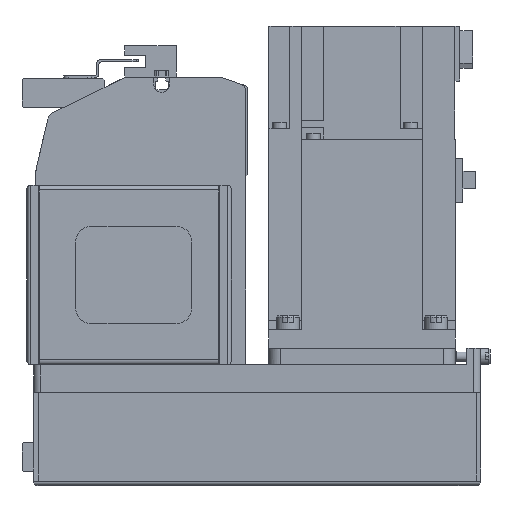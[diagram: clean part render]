
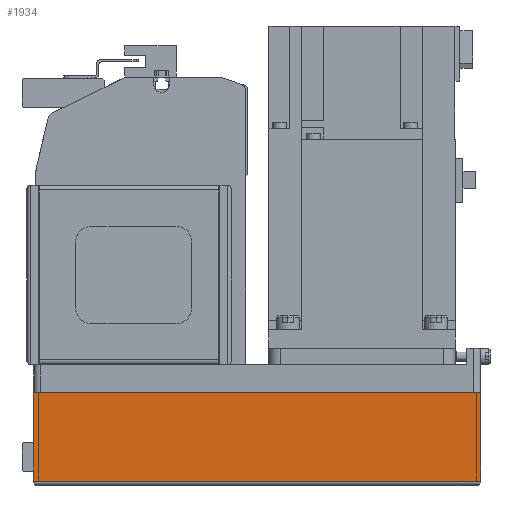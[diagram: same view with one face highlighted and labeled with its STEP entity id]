
A CAD part, left-side view. The second image highlights one B-rep face of the part: STEP entity #1934.
In plain terms, the highlighted planar face has unit normal (-1, 0, 0) as drawn and (0, 1, 0) by its records, which use the part's own axes.
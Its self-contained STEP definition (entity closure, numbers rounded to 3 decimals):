
#1934 = ADVANCED_FACE( '', ( #4458 ), #4459, .T. );
#4458 = FACE_OUTER_BOUND( '', #7704, .T. );
#4459 = PLANE( '', #7705 );
#7704 = EDGE_LOOP( '', ( #13133, #13134, #13135, #13136 ) );
#7705 = AXIS2_PLACEMENT_3D( '', #13137, #13138, #13139 );
#13133 = ORIENTED_EDGE( '', *, *, #20462, .F. );
#13134 = ORIENTED_EDGE( '', *, *, #20463, .F. );
#13135 = ORIENTED_EDGE( '', *, *, #20464, .T. );
#13136 = ORIENTED_EDGE( '', *, *, #18782, .T. );
#13137 = CARTESIAN_POINT( '', ( -192., 40., -50. ) );
#13138 = DIRECTION( '', ( 0., 1., 0. ) );
#13139 = DIRECTION( '', ( 0., 0., 1. ) );
#18782 = EDGE_CURVE( '', #22430, #22428, #22431, .T. );
#20462 = EDGE_CURVE( '', #23052, #22428, #25175, .T. );
#20463 = EDGE_CURVE( '', #25176, #23052, #25177, .T. );
#20464 = EDGE_CURVE( '', #25176, #22430, #25178, .T. );
#22428 = VERTEX_POINT( '', #27743 );
#22430 = VERTEX_POINT( '', #27746 );
#22431 = LINE( '', #27747, #27748 );
#23052 = VERTEX_POINT( '', #28574 );
#25175 = LINE( '', #31665, #31666 );
#25176 = VERTEX_POINT( '', #31667 );
#25177 = LINE( '', #31668, #31669 );
#25178 = LINE( '', #31670, #31671 );
#27743 = CARTESIAN_POINT( '', ( 0., 40., -12.1 ) );
#27746 = CARTESIAN_POINT( '', ( -192., 40., -12.1 ) );
#27747 = CARTESIAN_POINT( '', ( -192., 40., -12.1 ) );
#27748 = VECTOR( '', #34926, 1000. );
#28574 = CARTESIAN_POINT( '', ( 0., 40., -50. ) );
#31665 = CARTESIAN_POINT( '', ( 0., 40., -50. ) );
#31666 = VECTOR( '', #36978, 1000. );
#31667 = CARTESIAN_POINT( '', ( -192., 40., -50. ) );
#31668 = CARTESIAN_POINT( '', ( -192., 40., -50. ) );
#31669 = VECTOR( '', #36979, 1000. );
#31670 = CARTESIAN_POINT( '', ( -192., 40., -50. ) );
#31671 = VECTOR( '', #36980, 1000. );
#34926 = DIRECTION( '', ( 1., 0., 0. ) );
#36978 = DIRECTION( '', ( 0., 0., 1. ) );
#36979 = DIRECTION( '', ( 1., 0., 0. ) );
#36980 = DIRECTION( '', ( 0., 0., 1. ) );
